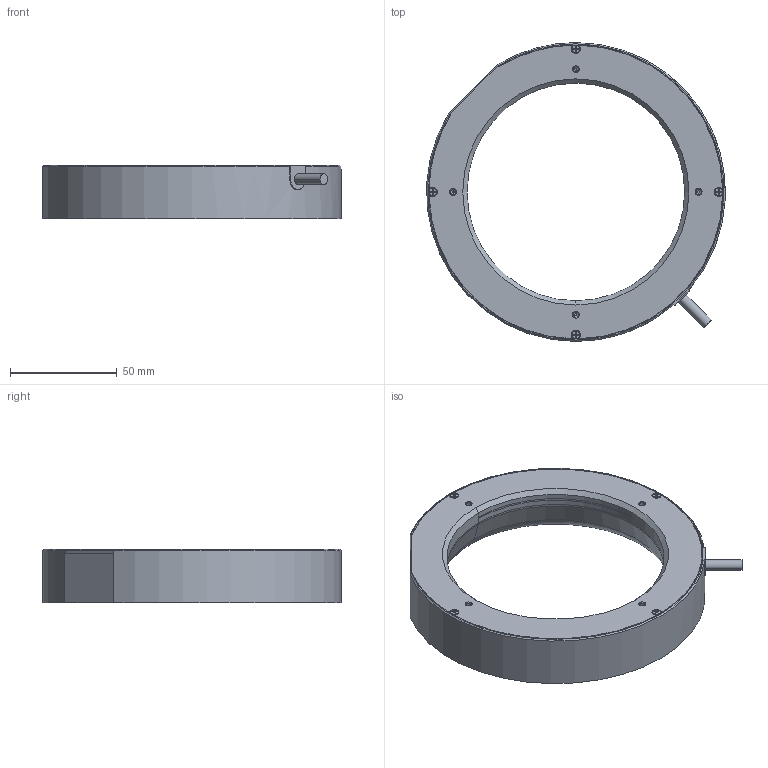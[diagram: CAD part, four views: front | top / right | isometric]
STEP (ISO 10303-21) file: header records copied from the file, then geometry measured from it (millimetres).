
FILE_DESCRIPTION((''),'2;1');
FILE_NAME('MV-LRDS-H-140-15-W','2022-09-02T16:09:42',('qiaoxuan5'),(''),'CREO PARAMETRIC BY PTC INC, 2020044','CREO PARAMETRIC BY PTC INC, 2020044','');
FILE_SCHEMA(('CONFIG_CONTROL_DESIGN'));
Length unit declared in the file: metre
Products named in the file (1): MV-LRDS-H-140-15-W
Bounding box: 139.87 x 140 x 25 mm (x, y, z)
Volume: 161710.9 mm3; surface area: 47402.2 mm2
Topology: 1 solids, 17 shells, 531 faces, 1317 edges, 797 vertices
Faces by surface type: plane 261, cylinder 150, cone 90, torus 24, sphere 6
Entity records: 15722 total; most frequent: CARTESIAN_POINT 3070, DIRECTION 2706, ORIENTED_EDGE 2590, EDGE_CURVE 1295, AXIS2_PLACEMENT_3D 989, VERTEX_POINT 797, VECTOR 728, LINE 728
